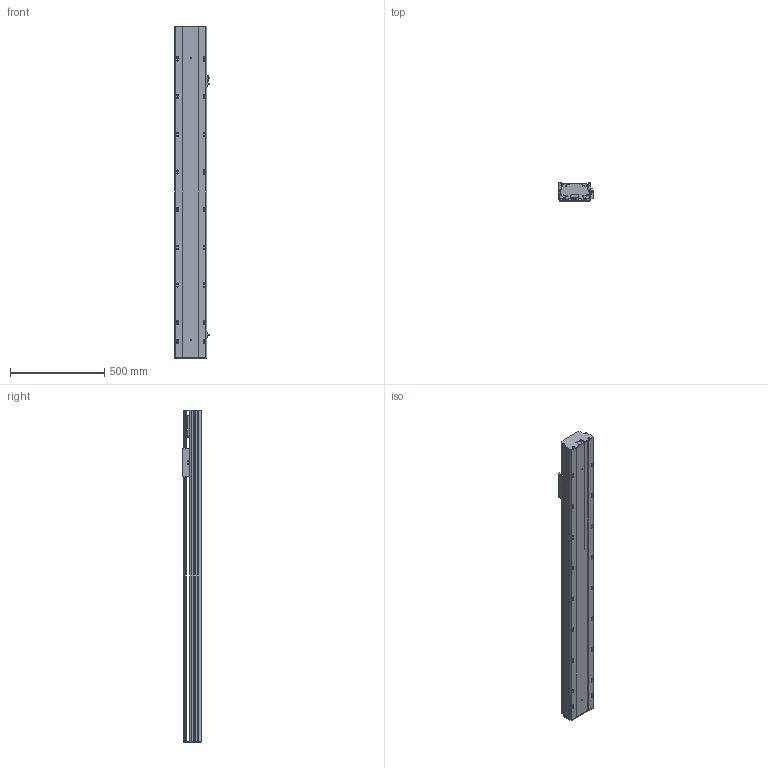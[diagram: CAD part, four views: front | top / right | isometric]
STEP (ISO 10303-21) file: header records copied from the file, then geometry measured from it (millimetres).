
FILE_DESCRIPTION (( 'STEP AP203' ), '1' );
FILE_NAME ('Y170-D10-S1350-M-P400W.STEP', '2020-01-22T13:58:48', ( '微软用户' ), ( '微软中国' ), 'SwSTEP 2.0', 'SolidWorks 2017', '' );
FILE_SCHEMA (( 'CONFIG_CONTROL_DESIGN' ));
Length unit declared in the file: millimetre
Products named in the file (10): 170--掛极-M; Y170耜裔--準---M; san松下电机400不带刹车----; Y170-陔遴奻裔-M; YD-Y100-135-新外置传感挡片(通用）; Y170-D10-S1350-M-P400W; Y100-135俋离換覜ん; 135-盓傅釱-FK15; Y170耜裔--準---; Y170--雄赽釱-梓--
Assembly tree (11 placements, depth 2):
  Y170-D10-S1350-M-P400W
    YD-Y100-135-新外置传感挡片(通用）
    Y100-135俋离換覜ん  x3
    135-盓傅釱-FK15
    Y170耜裔--準---
    Y170--雄赽釱-梓--
    170--掛极-M
    Y170耜裔--準---M
    san松下电机400不带刹车----
    Y170-陔遴奻裔-M
Bounding box: 183.5 x 97 x 1761 mm (x, y, z)
Volume: 7341735.1 mm3; surface area: 2633332.9 mm2
Topology: 11 solids, 11 shells, 821 faces, 2372 edges, 1572 vertices
Faces by surface type: cylinder 435, plane 384, torus 2
Entity records: 27100 total; most frequent: CARTESIAN_POINT 4985, DIRECTION 4462, ORIENTED_EDGE 4408, EDGE_CURVE 2204, AXIS2_PLACEMENT_3D 1593, VERTEX_POINT 1460, LINE 1276, VECTOR 1276
